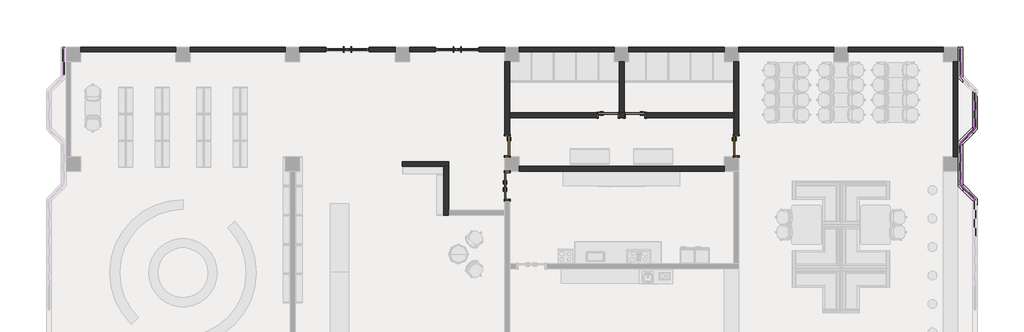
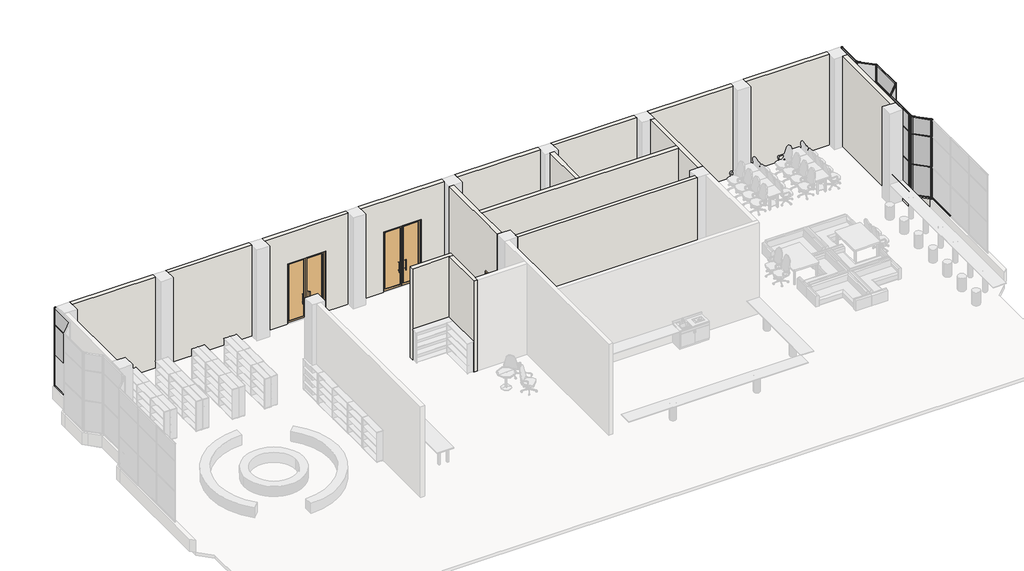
# One storey, part 4 of 6: 73 members, 21 walls, 20 plates, 7 doors.
"""IFC4 building model written with IfcOpenShell, lengths in millimetres."""

from ifc_helpers import new_model, si_unit, frame, origin, origin_with_axes, place, context, project, spatial, polyline, outline, extrude, faceted_brep, transform, mapped, element, save
from components import m1_23ed398d, m2_627b48e9, m3_482f5408, m3_1d156f18, member_cb4e50c7, member_b2874c62, member_936fc316, member_ce826986, member_f3a61f5a, member_844fc7d1, member_a19ce0de, member_3b68bbe8, member_416e91fe, member_e4634f50, member_39920356, member_1f987d58, member_65f70824, member_5b67f58a, plate_1ca0cd63, plate_9a7d06eb, plate_54ac635d, plate_9a913afb, plate_37a4c68e, plate_a56820a4, plate_a414dcb1, plate_d4bc9f12

model = new_model("IFC4")

# Units and contexts
model_context = context("Model", 3, world=origin())
ifc_project = project(units=[si_unit("LENGTHUNIT", "METRE", prefix="MILLI")], contexts=[model_context])

# Site, building, storey
site = spatial("IfcSite", under=ifc_project)
building = spatial("IfcBuilding", under=site)
storey = spatial("IfcBuildingStorey", under=building, Name="标高 1", Elevation=0.0)

# Doors
placement = place(None, origin())
m1_shape = m1_23ed398d(model_context)
element("IfcDoor", 1, ObjectType="双面嵌板玻璃门 : M1", at=placement, inside=storey, context=model_context, shape_type="MappedRepresentation", body=[
    mapped(m1_shape, transform((2817.3316161, 6574.535821, 0.0), x_axis=(1.0, 0.0, 0.0), y_axis=(0.0, 1.0, 0.0), z_axis=(0.0, 0.0, 1.0))),
])
element("IfcDoor", 2, ObjectType="双面嵌板玻璃门 : M1", at=placement, inside=storey, context=model_context, shape_type="MappedRepresentation", body=[
    mapped(m1_shape, transform((7317.3316161, 6574.535821, 0.0), x_axis=(1.0, 0.0, 0.0), y_axis=(0.0, 1.0, 0.0), z_axis=(0.0, 0.0, 1.0))),
])
m2_shape = m2_627b48e9(model_context)
element("IfcDoor", 3, ObjectType="双面嵌板木门 1 : M2", at=placement, inside=storey, context=model_context, shape_type="MappedRepresentation", body=[
    mapped(m2_shape, transform((9367.3316161, 974.535821, 0.0), x_axis=(0.0, 1.0, 0.0), y_axis=(-1.0, 0.0, 0.0), z_axis=(0.0, 0.0, 1.0))),
])
m3_shape = m3_482f5408(model_context)
element("IfcDoor", 4, ObjectType="单嵌板木门 1 : M3", at=placement, inside=storey, context=model_context, shape_type="MappedRepresentation", body=[
    mapped(m3_shape, transform((9367.3316161, 2624.535821, 0.0), x_axis=(0.0, -1.0, 0.0), y_axis=(1.0, 0.0, 0.0), z_axis=(0.0, 0.0, 1.0))),
])
element("IfcDoor", 5, ObjectType="单嵌板木门 1 : M3", at=placement, inside=storey, context=model_context, shape_type="MappedRepresentation", body=[
    mapped(m3_shape, transform((13517.3316161, 3874.535821, 0.0), x_axis=(1.0, 0.0, 0.0), y_axis=(0.0, 1.0, 0.0), z_axis=(0.0, 0.0, 1.0))),
])
m3_2_shape = m3_1d156f18(model_context)
element("IfcDoor", 6, ObjectType="单嵌板木门 1 : M3", at=placement, inside=storey, context=model_context, shape_type="MappedRepresentation", body=[
    mapped(m3_2_shape, transform((18767.3316161, 2624.535821, 0.0), x_axis=(0.0, -1.0, 0.0), y_axis=(1.0, 0.0, 0.0), z_axis=(0.0, 0.0, 1.0))),
])
element("IfcDoor", 7, ObjectType="单嵌板木门 1 : M3", at=placement, inside=storey, context=model_context, shape_type="MappedRepresentation", body=[
    mapped(m3_2_shape, transform((14617.3316161, 3874.535821, 0.0), x_axis=(-1.0, 0.0, 0.0), y_axis=(0.0, -1.0, 0.0), z_axis=(0.0, 0.0, 1.0))),
])

# Members
member_shape = member_cb4e50c7(model_context)
element("IfcMember", 8, ObjectType="圆形竖梃 : 25mm 半径", at=placement, inside=storey, context=model_context, shape_type="MappedRepresentation", body=[
    mapped(member_shape, transform((-8832.6683839, 6624.535821, 600.0), x_axis=(0.0, 0.0, -1.0), y_axis=(-1.0, 0.0, 0.0), z_axis=(0.0, 1.0, 0.0))),
])
member_2_shape = member_b2874c62(model_context)
element("IfcMember", 9, ObjectType="圆形竖梃 : 25mm 半径", at=placement, inside=storey, context=model_context, shape_type="MappedRepresentation", body=[
    mapped(member_2_shape, transform((-8832.6683839, 6674.535821, 4500.0), x_axis=(0.0, 1.0, 0.0), y_axis=(-1.0, 0.0, 0.0), z_axis=(0.0, 0.0, 1.0))),
])
member_3_shape = member_936fc316(model_context)
element("IfcMember", 10, ObjectType="圆形竖梃 : 25mm 半径", at=placement, inside=storey, context=model_context, shape_type="MappedRepresentation", body=[
    mapped(member_3_shape, transform((-8832.6683839, 6674.535821, 2135.0), x_axis=(0.0, 1.0, 0.0), y_axis=(-1.0, 0.0, 0.0), z_axis=(0.0, 0.0, 1.0))),
])
member_4_shape = member_ce826986(model_context)
element("IfcMember", 11, ObjectType="圆形竖梃 : 25mm 半径", at=placement, inside=storey, context=model_context, shape_type="MappedRepresentation", body=[
    mapped(member_4_shape, transform((-8832.6683839, 6674.535821, 3635.0), x_axis=(0.0, 1.0, 0.0), y_axis=(-1.0, 0.0, 0.0), z_axis=(0.0, 0.0, 1.0))),
])
element("IfcMember", 12, ObjectType="圆形竖梃 : 25mm 半径", at=placement, inside=storey, context=model_context, shape_type="MappedRepresentation", body=[
    mapped(member_shape, transform((27967.3316161, 5524.535821, 4500.0), x_axis=(0.0, 0.0, 1.0), y_axis=(-1.0, 0.0, 0.0), z_axis=(0.0, -1.0, 0.0))),
])
element("IfcMember", 13, ObjectType="圆形竖梃 : 25mm 半径", at=placement, inside=storey, context=model_context, shape_type="MappedRepresentation", body=[
    mapped(member_shape, transform((27967.3316161, 6624.535821, 600.0), x_axis=(0.0, 0.0, -1.0), y_axis=(-1.0, 0.0, 0.0), z_axis=(0.0, 1.0, 0.0))),
])
member_5_shape = member_f3a61f5a(model_context)
element("IfcMember", 14, ObjectType="矩形竖梃 : 30mm 正方形", at=placement, inside=storey, context=model_context, shape_type="MappedRepresentation", body=[
    mapped(member_5_shape, transform((27967.3316161, 5524.535821, 2135.0), x_axis=(0.0, 0.0, 1.0), y_axis=(-1.0, 0.0, 0.0), z_axis=(0.0, -1.0, 0.0))),
])
element("IfcMember", 15, ObjectType="矩形竖梃 : 30mm 正方形", at=placement, inside=storey, context=model_context, shape_type="MappedRepresentation", body=[
    mapped(member_5_shape, transform((27967.3316161, 5524.535821, 3635.0), x_axis=(0.0, 0.0, 1.0), y_axis=(-1.0, 0.0, 0.0), z_axis=(0.0, -1.0, 0.0))),
])
element("IfcMember", 16, ObjectType="圆形竖梃 : 25mm 半径", at=placement, inside=storey, context=model_context, shape_type="MappedRepresentation", body=[
    mapped(member_3_shape, transform((27967.3316161, 5474.535821, 600.0), x_axis=(0.0, -1.0, 0.0), y_axis=(-1.0, 0.0, 0.0), z_axis=(0.0, 0.0, -1.0))),
])
element("IfcMember", 17, ObjectType="圆形竖梃 : 25mm 半径", at=placement, inside=storey, context=model_context, shape_type="MappedRepresentation", body=[
    mapped(member_3_shape, transform((28567.3316161, 4874.535821, 600.0), x_axis=(0.7071067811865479, -0.7071067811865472, 0.0), y_axis=(-0.7071067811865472, -0.7071067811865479, 0.0), z_axis=(0.0, 0.0, -1.0))),
])
element("IfcMember", 18, ObjectType="圆形竖梃 : 25mm 半径", at=placement, inside=storey, context=model_context, shape_type="MappedRepresentation", body=[
    mapped(member_3_shape, transform((27967.3316161, 2733.1144647, 600.0), x_axis=(-0.7071067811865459, -0.7071067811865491, 0.0), y_axis=(-0.7071067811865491, 0.7071067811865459, 0.0), z_axis=(0.0, 0.0, -1.0))),
])
element("IfcMember", 19, ObjectType="圆形竖梃 : 25mm 半径", at=placement, inside=storey, context=model_context, shape_type="MappedRepresentation", body=[
    mapped(member_3_shape, transform((27967.3316161, 1015.9571772, 600.0), x_axis=(0.0, -1.0, 0.0), y_axis=(-1.0, 0.0, 0.0), z_axis=(0.0, 0.0, -1.0))),
])
element("IfcMember", 20, ObjectType="圆形竖梃 : 25mm 半径", at=placement, inside=storey, context=model_context, shape_type="MappedRepresentation", body=[
    mapped(member_3_shape, transform((28567.3316161, 415.9571772, 600.0), x_axis=(0.7071067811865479, -0.7071067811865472, 0.0), y_axis=(-0.7071067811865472, -0.7071067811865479, 0.0), z_axis=(0.0, 0.0, -1.0))),
])
element("IfcMember", 21, ObjectType="圆形竖梃 : 25mm 半径", at=placement, inside=storey, context=model_context, shape_type="MappedRepresentation", body=[
    mapped(member_4_shape, transform((27967.3316161, 5474.535821, 2135.0), x_axis=(0.0, -1.0, 0.0), y_axis=(-1.0, 0.0, 0.0), z_axis=(0.0, 0.0, -1.0))),
])
element("IfcMember", 22, ObjectType="圆形竖梃 : 25mm 半径", at=placement, inside=storey, context=model_context, shape_type="MappedRepresentation", body=[
    mapped(member_4_shape, transform((28567.3316161, 4874.535821, 2135.0), x_axis=(0.7071067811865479, -0.7071067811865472, 0.0), y_axis=(-0.7071067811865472, -0.7071067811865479, 0.0), z_axis=(0.0, 0.0, -1.0))),
])
element("IfcMember", 23, ObjectType="圆形竖梃 : 25mm 半径", at=placement, inside=storey, context=model_context, shape_type="MappedRepresentation", body=[
    mapped(member_4_shape, transform((27967.3316161, 2733.1144647, 2135.0), x_axis=(-0.7071067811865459, -0.7071067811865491, 0.0), y_axis=(-0.7071067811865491, 0.7071067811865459, 0.0), z_axis=(0.0, 0.0, -1.0))),
])
element("IfcMember", 24, ObjectType="圆形竖梃 : 25mm 半径", at=placement, inside=storey, context=model_context, shape_type="MappedRepresentation", body=[
    mapped(member_4_shape, transform((27967.3316161, 1015.9571772, 2135.0), x_axis=(0.0, -1.0, 0.0), y_axis=(-1.0, 0.0, 0.0), z_axis=(0.0, 0.0, -1.0))),
])
element("IfcMember", 25, ObjectType="圆形竖梃 : 25mm 半径", at=placement, inside=storey, context=model_context, shape_type="MappedRepresentation", body=[
    mapped(member_4_shape, transform((28567.3316161, 415.9571772, 2135.0), x_axis=(0.7071067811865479, -0.7071067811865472, 0.0), y_axis=(-0.7071067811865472, -0.7071067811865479, 0.0), z_axis=(0.0, 0.0, -1.0))),
])
element("IfcMember", 26, ObjectType="圆形竖梃 : 25mm 半径", at=placement, inside=storey, context=model_context, shape_type="MappedRepresentation", body=[
    mapped(member_2_shape, transform((27967.3316161, 5474.535821, 3635.0), x_axis=(0.0, -1.0, 0.0), y_axis=(-1.0, 0.0, 0.0), z_axis=(0.0, 0.0, -1.0))),
])
element("IfcMember", 27, ObjectType="圆形竖梃 : 25mm 半径", at=placement, inside=storey, context=model_context, shape_type="MappedRepresentation", body=[
    mapped(member_2_shape, transform((28567.3316161, 4874.535821, 3635.0), x_axis=(0.7071067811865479, -0.7071067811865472, 0.0), y_axis=(-0.7071067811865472, -0.7071067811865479, 0.0), z_axis=(0.0, 0.0, -1.0))),
])
element("IfcMember", 28, ObjectType="圆形竖梃 : 25mm 半径", at=placement, inside=storey, context=model_context, shape_type="MappedRepresentation", body=[
    mapped(member_2_shape, transform((27967.3316161, 2733.1144647, 3635.0), x_axis=(-0.7071067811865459, -0.7071067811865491, 0.0), y_axis=(-0.7071067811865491, 0.7071067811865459, 0.0), z_axis=(0.0, 0.0, -1.0))),
])
element("IfcMember", 29, ObjectType="圆形竖梃 : 25mm 半径", at=placement, inside=storey, context=model_context, shape_type="MappedRepresentation", body=[
    mapped(member_2_shape, transform((27967.3316161, 1015.9571772, 3635.0), x_axis=(0.0, -1.0, 0.0), y_axis=(-1.0, 0.0, 0.0), z_axis=(0.0, 0.0, -1.0))),
])
element("IfcMember", 30, ObjectType="圆形竖梃 : 25mm 半径", at=placement, inside=storey, context=model_context, shape_type="MappedRepresentation", body=[
    mapped(member_2_shape, transform((28567.3316161, 415.9571772, 3635.0), x_axis=(0.7071067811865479, -0.7071067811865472, 0.0), y_axis=(-0.7071067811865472, -0.7071067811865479, 0.0), z_axis=(0.0, 0.0, -1.0))),
])
element("IfcMember", 31, ObjectType="圆形竖梃 : 25mm 半径", at=placement, inside=storey, context=model_context, shape_type="MappedRepresentation", body=[
    mapped(member_2_shape, transform((27967.3316161, 6674.535821, 4500.0), x_axis=(0.0, 1.0, 0.0), y_axis=(-1.0, 0.0, 0.0), z_axis=(0.0, 0.0, 1.0))),
])
element("IfcMember", 32, ObjectType="圆形竖梃 : 25mm 半径", at=placement, inside=storey, context=model_context, shape_type="MappedRepresentation", body=[
    mapped(member_2_shape, transform((27967.3316161, 5474.535821, 4500.0), x_axis=(-0.7071067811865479, 0.7071067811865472, 0.0), y_axis=(-0.7071067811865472, -0.7071067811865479, 0.0), z_axis=(0.0, 0.0, 1.0))),
])
element("IfcMember", 33, ObjectType="圆形竖梃 : 25mm 半径", at=placement, inside=storey, context=model_context, shape_type="MappedRepresentation", body=[
    mapped(member_2_shape, transform((28567.3316161, 3333.1144647, 4500.0), x_axis=(0.7071067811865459, 0.7071067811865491, 0.0), y_axis=(-0.7071067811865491, 0.7071067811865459, 0.0), z_axis=(0.0, 0.0, 1.0))),
])
element("IfcMember", 34, ObjectType="圆形竖梃 : 25mm 半径", at=placement, inside=storey, context=model_context, shape_type="MappedRepresentation", body=[
    mapped(member_2_shape, transform((27967.3316161, 2733.1144647, 4500.0), x_axis=(0.0, 1.0, 0.0), y_axis=(-1.0, 0.0, 0.0), z_axis=(0.0, 0.0, 1.0))),
])
element("IfcMember", 35, ObjectType="圆形竖梃 : 25mm 半径", at=placement, inside=storey, context=model_context, shape_type="MappedRepresentation", body=[
    mapped(member_2_shape, transform((27967.3316161, 1015.9571772, 4500.0), x_axis=(-0.7071067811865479, 0.7071067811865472, 0.0), y_axis=(-0.7071067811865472, -0.7071067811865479, 0.0), z_axis=(0.0, 0.0, 1.0))),
])
element("IfcMember", 36, ObjectType="圆形竖梃 : 25mm 半径", at=placement, inside=storey, context=model_context, shape_type="MappedRepresentation", body=[
    mapped(member_2_shape, transform((28567.3316161, 415.9571772, 4500.0), x_axis=(0.0, 1.0, 0.0), y_axis=(-1.0, 0.0, 0.0), z_axis=(0.0, 0.0, 1.0))),
])
element("IfcMember", 37, ObjectType="圆形竖梃 : 25mm 半径", at=placement, inside=storey, context=model_context, shape_type="MappedRepresentation", body=[
    mapped(member_3_shape, transform((27967.3316161, 6674.535821, 2135.0), x_axis=(0.0, 1.0, 0.0), y_axis=(-1.0, 0.0, 0.0), z_axis=(0.0, 0.0, 1.0))),
])
element("IfcMember", 38, ObjectType="圆形竖梃 : 25mm 半径", at=placement, inside=storey, context=model_context, shape_type="MappedRepresentation", body=[
    mapped(member_3_shape, transform((27967.3316161, 5474.535821, 2135.0), x_axis=(-0.7071067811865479, 0.7071067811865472, 0.0), y_axis=(-0.7071067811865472, -0.7071067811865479, 0.0), z_axis=(0.0, 0.0, 1.0))),
])
element("IfcMember", 39, ObjectType="圆形竖梃 : 25mm 半径", at=placement, inside=storey, context=model_context, shape_type="MappedRepresentation", body=[
    mapped(member_3_shape, transform((28567.3316161, 3333.1144647, 2135.0), x_axis=(0.7071067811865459, 0.7071067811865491, 0.0), y_axis=(-0.7071067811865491, 0.7071067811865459, 0.0), z_axis=(0.0, 0.0, 1.0))),
])
element("IfcMember", 40, ObjectType="圆形竖梃 : 25mm 半径", at=placement, inside=storey, context=model_context, shape_type="MappedRepresentation", body=[
    mapped(member_3_shape, transform((27967.3316161, 2733.1144647, 2135.0), x_axis=(0.0, 1.0, 0.0), y_axis=(-1.0, 0.0, 0.0), z_axis=(0.0, 0.0, 1.0))),
])
element("IfcMember", 41, ObjectType="圆形竖梃 : 25mm 半径", at=placement, inside=storey, context=model_context, shape_type="MappedRepresentation", body=[
    mapped(member_3_shape, transform((27967.3316161, 1015.9571772, 2135.0), x_axis=(-0.7071067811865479, 0.7071067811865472, 0.0), y_axis=(-0.7071067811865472, -0.7071067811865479, 0.0), z_axis=(0.0, 0.0, 1.0))),
])
element("IfcMember", 42, ObjectType="圆形竖梃 : 25mm 半径", at=placement, inside=storey, context=model_context, shape_type="MappedRepresentation", body=[
    mapped(member_3_shape, transform((28567.3316161, 415.9571772, 2135.0), x_axis=(0.0, 1.0, 0.0), y_axis=(-1.0, 0.0, 0.0), z_axis=(0.0, 0.0, 1.0))),
])
element("IfcMember", 43, ObjectType="圆形竖梃 : 25mm 半径", at=placement, inside=storey, context=model_context, shape_type="MappedRepresentation", body=[
    mapped(member_4_shape, transform((27967.3316161, 6674.535821, 3635.0), x_axis=(0.0, 1.0, 0.0), y_axis=(-1.0, 0.0, 0.0), z_axis=(0.0, 0.0, 1.0))),
])
element("IfcMember", 44, ObjectType="圆形竖梃 : 25mm 半径", at=placement, inside=storey, context=model_context, shape_type="MappedRepresentation", body=[
    mapped(member_4_shape, transform((27967.3316161, 5474.535821, 3635.0), x_axis=(-0.7071067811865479, 0.7071067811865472, 0.0), y_axis=(-0.7071067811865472, -0.7071067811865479, 0.0), z_axis=(0.0, 0.0, 1.0))),
])
element("IfcMember", 45, ObjectType="圆形竖梃 : 25mm 半径", at=placement, inside=storey, context=model_context, shape_type="MappedRepresentation", body=[
    mapped(member_4_shape, transform((28567.3316161, 3333.1144647, 3635.0), x_axis=(0.7071067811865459, 0.7071067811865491, 0.0), y_axis=(-0.7071067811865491, 0.7071067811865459, 0.0), z_axis=(0.0, 0.0, 1.0))),
])
element("IfcMember", 46, ObjectType="圆形竖梃 : 25mm 半径", at=placement, inside=storey, context=model_context, shape_type="MappedRepresentation", body=[
    mapped(member_4_shape, transform((27967.3316161, 2733.1144647, 3635.0), x_axis=(0.0, 1.0, 0.0), y_axis=(-1.0, 0.0, 0.0), z_axis=(0.0, 0.0, 1.0))),
])
element("IfcMember", 47, ObjectType="圆形竖梃 : 25mm 半径", at=placement, inside=storey, context=model_context, shape_type="MappedRepresentation", body=[
    mapped(member_4_shape, transform((27967.3316161, 1015.9571772, 3635.0), x_axis=(-0.7071067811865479, 0.7071067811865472, 0.0), y_axis=(-0.7071067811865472, -0.7071067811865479, 0.0), z_axis=(0.0, 0.0, 1.0))),
])
element("IfcMember", 48, ObjectType="圆形竖梃 : 25mm 半径", at=placement, inside=storey, context=model_context, shape_type="MappedRepresentation", body=[
    mapped(member_4_shape, transform((28567.3316161, 415.9571772, 3635.0), x_axis=(0.0, 1.0, 0.0), y_axis=(-1.0, 0.0, 0.0), z_axis=(0.0, 0.0, 1.0))),
])
member_6_shape = member_844fc7d1(model_context)
element("IfcMember", 49, ObjectType="圆形竖梃 : 25mm 半径", at=placement, inside=storey, context=model_context, shape_type="MappedRepresentation", body=[
    mapped(member_6_shape, transform((28531.976277, 4909.89116, 4500.0), x_axis=(0.0, 0.0, 1.0), y_axis=(-0.7071067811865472, -0.7071067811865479, 0.0), z_axis=(0.7071067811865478, -0.7071067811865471, 0.0))),
])
element("IfcMember", 50, ObjectType="圆形竖梃 : 25mm 半径", at=placement, inside=storey, context=model_context, shape_type="MappedRepresentation", body=[
    mapped(member_6_shape, transform((28002.6869551, 2768.4698038, 4500.0), x_axis=(0.0, 0.0, 1.0), y_axis=(-0.7071067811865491, 0.7071067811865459, 0.0), z_axis=(-0.7071067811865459, -0.7071067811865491, 0.0))),
])
element("IfcMember", 51, ObjectType="圆形竖梃 : 25mm 半径", at=placement, inside=storey, context=model_context, shape_type="MappedRepresentation", body=[
    mapped(member_6_shape, transform((28531.976277, 451.3125163, 4500.0), x_axis=(0.0, 0.0, 1.0), y_axis=(-0.7071067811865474, -0.7071067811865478, 0.0), z_axis=(0.7071067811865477, -0.7071067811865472, 0.0))),
])
element("IfcMember", 52, ObjectType="圆形竖梃 : 25mm 半径", at=placement, inside=storey, context=model_context, shape_type="MappedRepresentation", body=[
    mapped(member_6_shape, transform((28531.976277, 3297.7591257, 600.0), x_axis=(0.0, 0.0, -1.0), y_axis=(-0.7071067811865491, 0.7071067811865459, 0.0), z_axis=(0.7071067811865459, 0.7071067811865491, 0.0))),
])
element("IfcMember", 53, ObjectType="圆形竖梃 : 25mm 半径", at=placement, inside=storey, context=model_context, shape_type="MappedRepresentation", body=[
    mapped(member_6_shape, transform((28002.6869551, 980.6018382, 600.0), x_axis=(0.0, 0.0, -1.0), y_axis=(-0.7071067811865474, -0.7071067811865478, 0.0), z_axis=(-0.7071067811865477, 0.7071067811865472, 0.0))),
])
member_7_shape = member_a19ce0de(model_context)
element("IfcMember", 54, ObjectType="矩形竖梃 : 30mm 正方形", at=placement, inside=storey, context=model_context, shape_type="MappedRepresentation", body=[
    mapped(member_7_shape, transform((28531.976277, 4909.89116, 2135.0), x_axis=(0.0, 0.0, 1.0), y_axis=(-0.7071067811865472, -0.7071067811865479, 0.0), z_axis=(0.7071067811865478, -0.7071067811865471, 0.0))),
])
element("IfcMember", 55, ObjectType="矩形竖梃 : 30mm 正方形", at=placement, inside=storey, context=model_context, shape_type="MappedRepresentation", body=[
    mapped(member_7_shape, transform((28531.976277, 4909.89116, 3635.0), x_axis=(0.0, 0.0, 1.0), y_axis=(-0.7071067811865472, -0.7071067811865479, 0.0), z_axis=(0.7071067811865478, -0.7071067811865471, 0.0))),
])
element("IfcMember", 56, ObjectType="矩形竖梃 : 30mm 正方形", at=placement, inside=storey, context=model_context, shape_type="MappedRepresentation", body=[
    mapped(member_7_shape, transform((28002.6869551, 2768.4698038, 2135.0), x_axis=(0.0, 0.0, 1.0), y_axis=(-0.7071067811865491, 0.7071067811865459, 0.0), z_axis=(-0.7071067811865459, -0.7071067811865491, 0.0))),
])
element("IfcMember", 57, ObjectType="矩形竖梃 : 30mm 正方形", at=placement, inside=storey, context=model_context, shape_type="MappedRepresentation", body=[
    mapped(member_7_shape, transform((28002.6869551, 2768.4698038, 3635.0), x_axis=(0.0, 0.0, 1.0), y_axis=(-0.7071067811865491, 0.7071067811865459, 0.0), z_axis=(-0.7071067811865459, -0.7071067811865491, 0.0))),
])
element("IfcMember", 58, ObjectType="矩形竖梃 : 30mm 正方形", at=placement, inside=storey, context=model_context, shape_type="MappedRepresentation", body=[
    mapped(member_7_shape, transform((28531.976277, 451.3125163, 2135.0), x_axis=(0.0, 0.0, 1.0), y_axis=(-0.7071067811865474, -0.7071067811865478, 0.0), z_axis=(0.7071067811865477, -0.7071067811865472, 0.0))),
])
element("IfcMember", 59, ObjectType="矩形竖梃 : 30mm 正方形", at=placement, inside=storey, context=model_context, shape_type="MappedRepresentation", body=[
    mapped(member_7_shape, transform((28531.976277, 451.3125163, 3635.0), x_axis=(0.0, 0.0, 1.0), y_axis=(-0.7071067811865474, -0.7071067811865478, 0.0), z_axis=(0.7071067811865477, -0.7071067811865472, 0.0))),
])
member_8_shape = member_3b68bbe8(model_context)
element("IfcMember", 60, ObjectType="圆形竖梃 : 25mm 半径", at=placement, inside=storey, context=model_context, shape_type="MappedRepresentation", body=[
    mapped(member_8_shape, transform((28567.3316161, 3354.5358207, 4500.0), x_axis=(0.0, 0.0, 1.0), y_axis=(-1.0, 0.0, 0.0), z_axis=(0.0, -1.0, 0.0))),
])
element("IfcMember", 61, ObjectType="圆形竖梃 : 25mm 半径", at=placement, inside=storey, context=model_context, shape_type="MappedRepresentation", body=[
    mapped(member_8_shape, transform((27967.3316161, 1213.1144644, 4500.0), x_axis=(0.0, 0.0, 1.0), y_axis=(-1.0, 0.0, 0.0), z_axis=(0.0, -1.0, 0.0))),
])
element("IfcMember", 62, ObjectType="圆形竖梃 : 25mm 半径", at=placement, inside=storey, context=model_context, shape_type="MappedRepresentation", body=[
    mapped(member_8_shape, transform((27967.3316161, 2683.1144647, 600.0), x_axis=(0.0, 0.0, -1.0), y_axis=(-1.0, 0.0, 0.0), z_axis=(0.0, 1.0, 0.0))),
])
element("IfcMember", 63, ObjectType="圆形竖梃 : 25mm 半径", at=placement, inside=storey, context=model_context, shape_type="MappedRepresentation", body=[
    mapped(member_8_shape, transform((28567.3316161, 365.9571772, 600.0), x_axis=(0.0, 0.0, -1.0), y_axis=(-1.0, 0.0, 0.0), z_axis=(0.0, 1.0, 0.0))),
])
member_9_shape = member_416e91fe(model_context)
element("IfcMember", 64, ObjectType="矩形竖梃 : 30mm 正方形", at=placement, inside=storey, context=model_context, shape_type="MappedRepresentation", body=[
    mapped(member_9_shape, transform((28567.3316161, 3354.5358207, 2135.0), x_axis=(0.0, 0.0, 1.0), y_axis=(-1.0, 0.0, 0.0), z_axis=(0.0, -1.0, 0.0))),
])
element("IfcMember", 65, ObjectType="矩形竖梃 : 30mm 正方形", at=placement, inside=storey, context=model_context, shape_type="MappedRepresentation", body=[
    mapped(member_9_shape, transform((28567.3316161, 3354.5358207, 3635.0), x_axis=(0.0, 0.0, 1.0), y_axis=(-1.0, 0.0, 0.0), z_axis=(0.0, -1.0, 0.0))),
])
element("IfcMember", 66, ObjectType="矩形竖梃 : 30mm 正方形", at=placement, inside=storey, context=model_context, shape_type="MappedRepresentation", body=[
    mapped(member_9_shape, transform((27967.3316161, 1213.1144644, 2135.0), x_axis=(0.0, 0.0, 1.0), y_axis=(-1.0, 0.0, 0.0), z_axis=(0.0, -1.0, 0.0))),
])
element("IfcMember", 67, ObjectType="矩形竖梃 : 30mm 正方形", at=placement, inside=storey, context=model_context, shape_type="MappedRepresentation", body=[
    mapped(member_9_shape, transform((27967.3316161, 1213.1144644, 3635.0), x_axis=(0.0, 0.0, 1.0), y_axis=(-1.0, 0.0, 0.0), z_axis=(0.0, -1.0, 0.0))),
])
member_10_shape = member_e4634f50(model_context)
element("IfcMember", 68, ObjectType="矩形竖梃 : 30mm 正方形", at=placement, inside=storey, context=model_context, shape_type="MappedRepresentation", body=[
    mapped(member_10_shape, transform((28567.3316161, 3339.5358207, 600.0), x_axis=(0.0, -1.0, 0.0), y_axis=(-1.0, 0.0, 0.0), z_axis=(0.0, 0.0, -1.0))),
])
element("IfcMember", 69, ObjectType="矩形竖梃 : 30mm 正方形", at=placement, inside=storey, context=model_context, shape_type="MappedRepresentation", body=[
    mapped(member_10_shape, transform((27967.3316161, 1198.1144644, 600.0), x_axis=(0.0, -1.0, 0.0), y_axis=(-1.0, 0.0, 0.0), z_axis=(0.0, 0.0, -1.0))),
])
member_11_shape = member_39920356(model_context)
element("IfcMember", 70, ObjectType="矩形竖梃 : 30mm 正方形", at=placement, inside=storey, context=model_context, shape_type="MappedRepresentation", body=[
    mapped(member_11_shape, transform((28567.3316161, 3339.5358207, 2135.0), x_axis=(0.0, -1.0, 0.0), y_axis=(-1.0, 0.0, 0.0), z_axis=(0.0, 0.0, -1.0))),
])
element("IfcMember", 71, ObjectType="矩形竖梃 : 30mm 正方形", at=placement, inside=storey, context=model_context, shape_type="MappedRepresentation", body=[
    mapped(member_11_shape, transform((27967.3316161, 1198.1144644, 2135.0), x_axis=(0.0, -1.0, 0.0), y_axis=(-1.0, 0.0, 0.0), z_axis=(0.0, 0.0, -1.0))),
])
member_12_shape = member_1f987d58(model_context)
element("IfcMember", 72, ObjectType="矩形竖梃 : 30mm 正方形", at=placement, inside=storey, context=model_context, shape_type="MappedRepresentation", body=[
    mapped(member_12_shape, transform((28567.3316161, 3339.5358207, 3635.0), x_axis=(0.0, -1.0, 0.0), y_axis=(-1.0, 0.0, 0.0), z_axis=(0.0, 0.0, -1.0))),
])
element("IfcMember", 73, ObjectType="矩形竖梃 : 30mm 正方形", at=placement, inside=storey, context=model_context, shape_type="MappedRepresentation", body=[
    mapped(member_12_shape, transform((27967.3316161, 1198.1144644, 3635.0), x_axis=(0.0, -1.0, 0.0), y_axis=(-1.0, 0.0, 0.0), z_axis=(0.0, 0.0, -1.0))),
])
element("IfcMember", 74, ObjectType="圆形竖梃 : 25mm 半径", at=placement, inside=storey, context=model_context, shape_type="MappedRepresentation", body=[
    mapped(member_3_shape, transform((28567.3316161, 3333.1144647, 600.0), x_axis=(0.0, -1.0, 0.0), y_axis=(-1.0, 0.0, 0.0), z_axis=(0.0, 0.0, -1.0))),
])
element("IfcMember", 75, ObjectType="圆形竖梃 : 25mm 半径", at=placement, inside=storey, context=model_context, shape_type="MappedRepresentation", body=[
    mapped(member_4_shape, transform((28567.3316161, 3333.1144647, 2135.0), x_axis=(0.0, -1.0, 0.0), y_axis=(-1.0, 0.0, 0.0), z_axis=(0.0, 0.0, -1.0))),
])
element("IfcMember", 76, ObjectType="圆形竖梃 : 25mm 半径", at=placement, inside=storey, context=model_context, shape_type="MappedRepresentation", body=[
    mapped(member_2_shape, transform((28567.3316161, 3333.1144647, 3635.0), x_axis=(0.0, -1.0, 0.0), y_axis=(-1.0, 0.0, 0.0), z_axis=(0.0, 0.0, -1.0))),
])
member_13_shape = member_65f70824(model_context)
element("IfcMember", 77, ObjectType="圆形竖梃 : 25mm 半径", at=placement, inside=storey, context=model_context, shape_type="MappedRepresentation", body=[
    mapped(member_13_shape, transform((27967.3316161, 1065.9571772, 4500.0), x_axis=(0.0, 0.0, 1.0), y_axis=(-1.0, 0.0, 0.0), z_axis=(0.0, -1.0, 0.0))),
])
element("IfcMember", 78, ObjectType="圆形竖梃 : 25mm 半径", at=placement, inside=storey, context=model_context, shape_type="MappedRepresentation", body=[
    mapped(member_13_shape, transform((27967.3316161, 1183.1144644, 600.0), x_axis=(0.0, 0.0, -1.0), y_axis=(-1.0, 0.0, 0.0), z_axis=(0.0, 1.0, 0.0))),
])
member_14_shape = member_5b67f58a(model_context)
element("IfcMember", 79, ObjectType="矩形竖梃 : 30mm 正方形", at=placement, inside=storey, context=model_context, shape_type="MappedRepresentation", body=[
    mapped(member_14_shape, transform((27967.3316161, 1065.9571772, 2135.0), x_axis=(0.0, 0.0, 1.0), y_axis=(-1.0, 0.0, 0.0), z_axis=(0.0, -1.0, 0.0))),
])
element("IfcMember", 80, ObjectType="矩形竖梃 : 30mm 正方形", at=placement, inside=storey, context=model_context, shape_type="MappedRepresentation", body=[
    mapped(member_14_shape, transform((27967.3316161, 1065.9571772, 3635.0), x_axis=(0.0, 0.0, 1.0), y_axis=(-1.0, 0.0, 0.0), z_axis=(0.0, -1.0, 0.0))),
])

# Plates
plate_shape = plate_1ca0cd63(model_context)
element("IfcPlate", 81, ObjectType="系统嵌板 : 玻璃", at=placement, inside=storey, context=model_context, shape_type="MappedRepresentation", body=[
    mapped(plate_shape, transform((-8832.6683839, 6074.535821, 2150.0), x_axis=(0.0, -1.0, 0.0), y_axis=(1.0, 0.0, 0.0), z_axis=(0.0, 0.0, 1.0))),
])
plate_2_shape = plate_9a7d06eb(model_context)
element("IfcPlate", 82, ObjectType="系统嵌板 : 玻璃", at=placement, inside=storey, context=model_context, shape_type="MappedRepresentation", body=[
    mapped(plate_2_shape, transform((-8832.6683839, 6074.535821, 3650.0), x_axis=(0.0, -1.0, 0.0), y_axis=(1.0, 0.0, 0.0), z_axis=(0.0, 0.0, 1.0))),
])
element("IfcPlate", 83, ObjectType="系统嵌板 : 玻璃", at=placement, inside=storey, context=model_context, shape_type="MappedRepresentation", body=[
    mapped(plate_shape, transform((27967.3316161, 6074.535821, 650.0), x_axis=(0.0, -1.0, 0.0), y_axis=(1.0, 0.0, 0.0), z_axis=(0.0, 0.0, 1.0))),
])
element("IfcPlate", 84, ObjectType="系统嵌板 : 玻璃", at=placement, inside=storey, context=model_context, shape_type="MappedRepresentation", body=[
    mapped(plate_shape, transform((27967.3316161, 6074.535821, 2150.0), x_axis=(0.0, -1.0, 0.0), y_axis=(1.0, 0.0, 0.0), z_axis=(0.0, 0.0, 1.0))),
])
element("IfcPlate", 85, ObjectType="系统嵌板 : 玻璃", at=placement, inside=storey, context=model_context, shape_type="MappedRepresentation", body=[
    mapped(plate_2_shape, transform((27967.3316161, 6074.535821, 3650.0), x_axis=(0.0, -1.0, 0.0), y_axis=(1.0, 0.0, 0.0), z_axis=(0.0, 0.0, 1.0))),
])
plate_3_shape = plate_54ac635d(model_context)
element("IfcPlate", 86, ObjectType="系统嵌板 : 玻璃", at=placement, inside=storey, context=model_context, shape_type="MappedRepresentation", body=[
    mapped(plate_3_shape, transform((28267.3316161, 3033.1144647, 650.0), x_axis=(-0.7071067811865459, -0.7071067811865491, 0.0), y_axis=(0.7071067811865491, -0.7071067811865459, 0.0), z_axis=(0.0, 0.0, 1.0))),
])
element("IfcPlate", 87, ObjectType="系统嵌板 : 玻璃", at=placement, inside=storey, context=model_context, shape_type="MappedRepresentation", body=[
    mapped(plate_3_shape, transform((28267.3316161, 3033.1144647, 2150.0), x_axis=(-0.7071067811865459, -0.7071067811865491, 0.0), y_axis=(0.7071067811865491, -0.7071067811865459, 0.0), z_axis=(0.0, 0.0, 1.0))),
])
element("IfcPlate", 88, ObjectType="系统嵌板 : 玻璃", at=placement, inside=storey, context=model_context, shape_type="MappedRepresentation", body=[
    mapped(plate_3_shape, transform((28267.3316161, 715.9571772, 650.0), x_axis=(0.7071067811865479, -0.7071067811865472, 0.0), y_axis=(0.7071067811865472, 0.7071067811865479, 0.0), z_axis=(0.0, 0.0, 1.0))),
])
element("IfcPlate", 89, ObjectType="系统嵌板 : 玻璃", at=placement, inside=storey, context=model_context, shape_type="MappedRepresentation", body=[
    mapped(plate_3_shape, transform((28267.3316161, 715.9571772, 2150.0), x_axis=(0.7071067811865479, -0.7071067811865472, 0.0), y_axis=(0.7071067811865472, 0.7071067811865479, 0.0), z_axis=(0.0, 0.0, 1.0))),
])
plate_4_shape = plate_9a913afb(model_context)
element("IfcPlate", 90, ObjectType="系统嵌板 : 玻璃", at=placement, inside=storey, context=model_context, shape_type="MappedRepresentation", body=[
    mapped(plate_4_shape, transform((28267.3316161, 3033.1144647, 3650.0), x_axis=(-0.7071067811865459, -0.7071067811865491, 0.0), y_axis=(0.7071067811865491, -0.7071067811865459, 0.0), z_axis=(0.0, 0.0, 1.0))),
])
element("IfcPlate", 91, ObjectType="系统嵌板 : 玻璃", at=placement, inside=storey, context=model_context, shape_type="MappedRepresentation", body=[
    mapped(plate_4_shape, transform((28267.3316161, 715.9571772, 3650.0), x_axis=(0.7071067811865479, -0.7071067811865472, 0.0), y_axis=(0.7071067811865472, 0.7071067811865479, 0.0), z_axis=(0.0, 0.0, 1.0))),
])
plate_5_shape = plate_37a4c68e(model_context)
element("IfcPlate", 92, ObjectType="系统嵌板 : 玻璃", at=placement, inside=storey, context=model_context, shape_type="MappedRepresentation", body=[
    mapped(plate_5_shape, transform((28567.3316161, 4089.5358208, 650.0), x_axis=(0.0, -1.0, 0.0), y_axis=(1.0, 0.0, 0.0), z_axis=(0.0, 0.0, 1.0))),
])
element("IfcPlate", 93, ObjectType="系统嵌板 : 玻璃", at=placement, inside=storey, context=model_context, shape_type="MappedRepresentation", body=[
    mapped(plate_5_shape, transform((28567.3316161, 4089.5358208, 2150.0), x_axis=(0.0, -1.0, 0.0), y_axis=(1.0, 0.0, 0.0), z_axis=(0.0, 0.0, 1.0))),
])
element("IfcPlate", 94, ObjectType="系统嵌板 : 玻璃", at=placement, inside=storey, context=model_context, shape_type="MappedRepresentation", body=[
    mapped(plate_5_shape, transform((27967.3316161, 1948.1144646, 650.0), x_axis=(0.0, -1.0, 0.0), y_axis=(1.0, 0.0, 0.0), z_axis=(0.0, 0.0, 1.0))),
])
element("IfcPlate", 95, ObjectType="系统嵌板 : 玻璃", at=placement, inside=storey, context=model_context, shape_type="MappedRepresentation", body=[
    mapped(plate_5_shape, transform((27967.3316161, 1948.1144646, 2150.0), x_axis=(0.0, -1.0, 0.0), y_axis=(1.0, 0.0, 0.0), z_axis=(0.0, 0.0, 1.0))),
])
plate_6_shape = plate_a56820a4(model_context)
element("IfcPlate", 96, ObjectType="系统嵌板 : 玻璃", at=placement, inside=storey, context=model_context, shape_type="MappedRepresentation", body=[
    mapped(plate_6_shape, transform((28567.3316161, 4089.5358208, 3650.0), x_axis=(0.0, -1.0, 0.0), y_axis=(1.0, 0.0, 0.0), z_axis=(0.0, 0.0, 1.0))),
])
element("IfcPlate", 97, ObjectType="系统嵌板 : 玻璃", at=placement, inside=storey, context=model_context, shape_type="MappedRepresentation", body=[
    mapped(plate_6_shape, transform((27967.3316161, 1948.1144646, 3650.0), x_axis=(0.0, -1.0, 0.0), y_axis=(1.0, 0.0, 0.0), z_axis=(0.0, 0.0, 1.0))),
])
plate_7_shape = plate_a414dcb1(model_context)
element("IfcPlate", 98, ObjectType="系统嵌板 : 玻璃", at=placement, inside=storey, context=model_context, shape_type="MappedRepresentation", body=[
    mapped(plate_7_shape, transform((27967.3316161, 1124.5358208, 650.0), x_axis=(0.0, -1.0, 0.0), y_axis=(1.0, 0.0, 0.0), z_axis=(0.0, 0.0, 1.0))),
])
element("IfcPlate", 99, ObjectType="系统嵌板 : 玻璃", at=placement, inside=storey, context=model_context, shape_type="MappedRepresentation", body=[
    mapped(plate_7_shape, transform((27967.3316161, 1124.5358208, 2150.0), x_axis=(0.0, -1.0, 0.0), y_axis=(1.0, 0.0, 0.0), z_axis=(0.0, 0.0, 1.0))),
])
plate_8_shape = plate_d4bc9f12(model_context)
element("IfcPlate", 100, ObjectType="系统嵌板 : 玻璃", at=placement, inside=storey, context=model_context, shape_type="MappedRepresentation", body=[
    mapped(plate_8_shape, transform((27967.3316161, 1124.5358208, 3650.0), x_axis=(0.0, -1.0, 0.0), y_axis=(1.0, 0.0, 0.0), z_axis=(0.0, 0.0, 1.0))),
])

# Walls
element("IfcWall", 101, ObjectType="外墙-200", at=placement, inside=storey, context=model_context, shape_type="SweptSolid", body=[
    extrude(outline(polyline([(-4232.6683839, 6474.535821), (-8132.6683839, 6474.535821), (-8132.6683839, 6674.535821), (-4232.6683839, 6674.535821), (-4232.6683839, 6474.535821)])), origin_with_axes(), (0.0, 0.0, 1.0), 4500.0),
])
element("IfcWall", 102, ObjectType="外墙-200", at=placement, inside=storey, context=model_context, shape_type="SweptSolid", body=[
    extrude(outline(polyline([(267.3316161, 6474.535821), (-3632.6683839, 6474.535821), (-3632.6683839, 6674.535821), (267.3316161, 6674.535821), (267.3316161, 6474.535821)])), origin_with_axes(), (0.0, 0.0, 1.0), 4500.0),
])
element("IfcWall", 103, ObjectType="外墙-200", at=placement, inside=storey, context=model_context, shape_type="SweptSolid", body=[
    extrude(outline(polyline([(0.0, 4767.3316161), (4500.0, 4767.3316161), (4500.0, 867.3316161), (0.0, 867.3316161), (0.0, 1917.3316161), (3000.0, 1917.3316161), (3000.0, 3717.3316161), (0.0, 3717.3316161), (0.0, 4767.3316161)])), frame((0.0, 6474.535821, 0.0), z_axis=(0.0, 1.0, 0.0), x_axis=(0.0, 0.0, 1.0)), (0.0, 0.0, 1.0), 200.0),
])
element("IfcWall", 104, ObjectType="外墙-200", at=placement, inside=storey, context=model_context, shape_type="SweptSolid", body=[
    extrude(outline(polyline([(0.0, 9267.3316161), (4500.0, 9267.3316161), (4500.0, 5367.3316161), (0.0, 5367.3316161), (0.0, 6417.3316161), (3000.0, 6417.3316161), (3000.0, 8217.3316161), (0.0, 8217.3316161), (0.0, 9267.3316161)])), frame((0.0, 6474.535821, 0.0), z_axis=(0.0, 1.0, 0.0), x_axis=(0.0, 0.0, 1.0)), (0.0, 0.0, 1.0), 200.0),
])
element("IfcWall", 105, ObjectType="外墙-200", at=placement, inside=storey, context=model_context, shape_type="SweptSolid", body=[
    extrude(outline(polyline([(13767.3316161, 6474.535821), (9867.3316161, 6474.535821), (9867.3316161, 6674.535821), (13767.3316161, 6674.535821), (13767.3316161, 6474.535821)])), origin_with_axes(), (0.0, 0.0, 1.0), 4500.0),
])
element("IfcWall", 106, ObjectType="外墙-200", at=placement, inside=storey, context=model_context, shape_type="SweptSolid", body=[
    extrude(outline(polyline([(18267.3316161, 6474.535821), (14367.3316161, 6474.535821), (14367.3316161, 6674.535821), (18267.3316161, 6674.535821), (18267.3316161, 6474.535821)])), origin_with_axes(), (0.0, 0.0, 1.0), 4500.0),
])
element("IfcWall", 107, ObjectType="外墙-200", at=placement, inside=storey, context=model_context, shape_type="SweptSolid", body=[
    extrude(outline(polyline([(22767.3316161, 6474.535821), (18867.3316161, 6474.535821), (18867.3316161, 6674.535821), (22767.3316161, 6674.535821), (22767.3316161, 6474.535821)])), origin_with_axes(), (0.0, 0.0, 1.0), 4500.0),
])
element("IfcWall", 108, ObjectType="外墙-200", at=placement, inside=storey, context=model_context, shape_type="SweptSolid", body=[
    extrude(outline(polyline([(27267.3316161, 6474.535821), (23367.3316161, 6474.535821), (23367.3316161, 6674.535821), (27267.3316161, 6674.535821), (27267.3316161, 6474.535821)])), origin_with_axes(), (0.0, 0.0, 1.0), 4500.0),
])
element("IfcWall", 109, ObjectType="外墙-200", at=placement, inside=storey, context=model_context, shape_type="SweptSolid", body=[
    extrude(outline(polyline([(27667.3316161, 2174.535821), (27667.3316161, 6074.535821), (27867.3316161, 6074.535821), (27867.3316161, 2174.535821), (27667.3316161, 2174.535821)])), origin_with_axes(), (0.0, 0.0, 1.0), 4500.0),
])
element("IfcWall", 110, ObjectType="内墙-200", at=placement, inside=storey, context=model_context, shape_type="Brep", body=[
    faceted_brep([(5067.3316161, 1774.535821, 0.0), (6767.3316161, 1774.535821, 0.0), (6967.3316161, 1774.535821, 0.0), (6967.3316161, 1774.535821, 4500.0), (6767.3316161, 1774.535821, 4500.0), (5067.3316161, 1774.535821, 4500.0), (5067.3316161, 1974.535821, 0.0), (5067.3316161, 1974.535821, 4500.0), (6967.3316161, 1974.535821, 4500.0), (6967.3316161, 1974.535821, 0.0)], [[[0, 1, 2, 3, 4, 5]], [[6, 7, 8, 9]], [[2, 1, 0, 6, 9]], [[5, 4, 3, 8, 7]], [[0, 5, 7, 6]], [[3, 2, 9, 8]]]),
])
element("IfcWall", 111, ObjectType="内墙-200", at=placement, inside=storey, context=model_context, shape_type="Brep", body=[
    faceted_brep([(6767.3316161, 1774.535821, 0.0), (6767.3316161, -225.464179, 0.0), (6767.3316161, -225.464179, 4500.0), (6767.3316161, 1774.535821, 4500.0), (6967.3316161, 1774.535821, 0.0), (6967.3316161, 1774.535821, 4500.0), (6967.3316161, -25.464179, 4500.0), (6967.3316161, -225.464179, 4500.0), (6967.3316161, -225.464179, 0.0), (6967.3316161, -25.464179, 0.0)], [[[0, 1, 2, 3]], [[4, 5, 6, 7, 8, 9]], [[1, 0, 4, 9, 8]], [[3, 2, 7, 6, 5]], [[0, 3, 5, 4]], [[2, 1, 8, 7]]]),
])
element("IfcWall", 112, ObjectType="内墙-200", at=placement, inside=storey, context=model_context, shape_type="Brep", body=[
    faceted_brep([(9267.3316161, 2174.535821, 4500.0), (9267.3316161, 6074.535821, 4500.0), (9267.3316161, 6074.535821, 0.0), (9267.3316161, 3074.535821, 0.0), (9267.3316161, 3074.535821, 2100.0), (9267.3316161, 2174.535821, 2100.0), (9467.3316161, 6074.535821, 4500.0), (9467.3316161, 3974.535821, 4500.0), (9467.3316161, 3774.535821, 4500.0), (9467.3316161, 2174.535821, 4500.0), (9467.3316161, 2174.535821, 2100.0), (9467.3316161, 3074.535821, 2100.0), (9467.3316161, 3074.535821, 0.0), (9467.3316161, 6074.535821, 0.0)], [[[0, 1, 2, 3, 4, 5]], [[6, 7, 8, 9, 10, 11, 12, 13]], [[2, 13, 12, 3]], [[9, 0, 5, 10]], [[1, 0, 9, 8, 7, 6]], [[2, 1, 6, 13]], [[4, 11, 10, 5]], [[11, 4, 3, 12]]]),
])
element("IfcWall", 113, ObjectType="内墙-200", at=placement, inside=storey, context=model_context, shape_type="SweptSolid", body=[
    extrude(outline(polyline([(18267.3316161, 1574.535821), (9867.3316161, 1574.535821), (9867.3316161, 1774.535821), (18267.3316161, 1774.535821), (18267.3316161, 1574.535821)])), origin_with_axes(), (0.0, 0.0, 1.0), 4500.0),
])
element("IfcWall", 114, ObjectType="内墙-200", at=placement, inside=storey, context=model_context, shape_type="Brep", body=[
    faceted_brep([(18867.3316161, 6074.535821, 0.0), (18867.3316161, 6074.535821, 4500.0), (18867.3316161, 2174.535821, 4500.0), (18867.3316161, 2174.535821, 2100.0), (18867.3316161, 3074.535821, 2100.0), (18867.3316161, 3074.535821, 0.0), (18667.3316161, 6074.535821, 4500.0), (18667.3316161, 6074.535821, 0.0), (18667.3316161, 3074.535821, 0.0), (18667.3316161, 3074.535821, 2100.0), (18667.3316161, 2174.535821, 2100.0), (18667.3316161, 2174.535821, 4500.0), (18667.3316161, 3774.535821, 4500.0), (18667.3316161, 3974.535821, 4500.0)], [[[0, 1, 2, 3, 4, 5]], [[6, 7, 8, 9, 10, 11, 12, 13]], [[7, 0, 5, 8]], [[1, 0, 7, 6]], [[2, 1, 6, 13, 12, 11]], [[2, 11, 10, 3]], [[9, 4, 3, 10]], [[4, 9, 8, 5]]]),
])
element("IfcWall", 115, ObjectType="外墙-200", at=placement, inside=storey, context=model_context, shape_type="Brep", body=[
    faceted_brep([(27867.3316161, 6674.535821, 0.0), (27867.3316161, 5433.1144647, 0.0), (27867.3316161, 5433.1144647, 600.0), (27867.3316161, 6674.535821, 600.0), (28067.3316161, 6674.535821, 0.0), (28067.3316161, 6674.535821, 600.0), (28067.3316161, 5515.9571772, 600.0), (28067.3316161, 5233.1144647, 600.0), (28067.3316161, 5233.1144647, 0.0), (28067.3316161, 5515.9571772, 0.0)], [[[0, 1, 2, 3]], [[4, 5, 6, 7, 8, 9]], [[1, 0, 4, 9, 8]], [[3, 2, 7, 6, 5]], [[0, 3, 5, 4]], [[2, 1, 8, 7]]]),
])
element("IfcWall", 116, ObjectType="外墙-200", at=placement, inside=storey, context=model_context, shape_type="Brep", body=[
    faceted_brep([(28467.3316161, 4833.1144647, 0.0), (28467.3316161, 3374.535821, 0.0), (28467.3316161, 3091.6931085, 0.0), (28467.3316161, 3091.6931085, 600.0), (28467.3316161, 3374.535821, 600.0), (28467.3316161, 4833.1144647, 600.0), (28667.3316161, 4633.1144647, 0.0), (28667.3316161, 4633.1144647, 600.0), (28667.3316161, 3291.6931085, 600.0), (28667.3316161, 3291.6931085, 0.0)], [[[0, 1, 2, 3, 4, 5]], [[6, 7, 8, 9]], [[2, 1, 0, 6, 9]], [[5, 4, 3, 8, 7]], [[0, 5, 7, 6]], [[3, 2, 9, 8]]]),
])
element("IfcWall", 117, ObjectType="外墙-200", at=placement, inside=storey, context=model_context, shape_type="Brep", body=[
    faceted_brep([(27867.3316161, 2491.6931085, 0.0), (28067.3316161, 2691.6931085, 0.0), (28467.3316161, 3091.6931085, 0.0), (28467.3316161, 3091.6931085, 600.0), (28067.3316161, 2691.6931085, 600.0), (27867.3316161, 2491.6931085, 600.0), (27867.3316161, 2774.535821, 0.0), (27867.3316161, 2774.535821, 600.0), (28467.3316161, 3374.535821, 600.0), (28467.3316161, 3374.535821, 0.0)], [[[0, 1, 2, 3, 4, 5]], [[6, 7, 8, 9]], [[2, 1, 0, 6, 9]], [[5, 4, 3, 8, 7]], [[3, 2, 9, 8]], [[0, 5, 7, 6]]]),
])
element("IfcWall", 118, ObjectType="外墙-200", at=placement, inside=storey, context=model_context, shape_type="Brep", body=[
    faceted_brep([(27867.3316161, 2491.6931085, 0.0), (27867.3316161, 974.535821, 0.0), (27867.3316161, 974.535821, 600.0), (27867.3316161, 2491.6931085, 600.0), (28067.3316161, 2691.6931085, 0.0), (28067.3316161, 2691.6931085, 600.0), (28067.3316161, 1057.3785335, 600.0), (28067.3316161, 774.535821, 600.0), (28067.3316161, 774.535821, 0.0), (28067.3316161, 1057.3785335, 0.0)], [[[0, 1, 2, 3]], [[4, 5, 6, 7, 8, 9]], [[1, 0, 4, 9, 8]], [[3, 2, 7, 6, 5]], [[2, 1, 8, 7]], [[0, 3, 5, 4]]]),
])
element("IfcWall", 119, ObjectType="外墙-200", at=placement, inside=storey, context=model_context, shape_type="Brep", body=[
    faceted_brep([(28067.3316161, 774.535821, 0.0), (28467.3316161, 374.535821, 0.0), (28667.3316161, 174.535821, 0.0), (28667.3316161, 174.535821, 600.0), (28467.3316161, 374.535821, 600.0), (28067.3316161, 774.535821, 600.0), (28067.3316161, 1057.3785335, 0.0), (28067.3316161, 1057.3785335, 600.0), (28667.3316161, 457.3785335, 600.0), (28667.3316161, 457.3785335, 0.0)], [[[0, 1, 2, 3, 4, 5]], [[6, 7, 8, 9]], [[2, 1, 0, 6, 9]], [[5, 4, 3, 8, 7]], [[0, 5, 7, 6]], [[3, 2, 9, 8]]]),
])
element("IfcWall", 120, ObjectType="内墙-200", at=placement, inside=storey, context=model_context, shape_type="Brep", body=[
    faceted_brep([(18667.3316161, 3774.535821, 4500.0), (9467.3316161, 3774.535821, 4500.0), (9467.3316161, 3774.535821, 600.0), (13067.3316161, 3774.535821, 600.0), (13067.3316161, 3774.535821, 2100.0), (13967.3316161, 3774.535821, 2100.0), (13967.3316161, 3774.535821, 600.0), (14167.3316161, 3774.535821, 600.0), (14167.3316161, 3774.535821, 2100.0), (15067.3316161, 3774.535821, 2100.0), (15067.3316161, 3774.535821, 600.0), (18667.3316161, 3774.535821, 600.0), (9467.3316161, 3974.535821, 4500.0), (13967.3316161, 3974.535821, 4500.0), (14167.3316161, 3974.535821, 4500.0), (18667.3316161, 3974.535821, 4500.0), (18667.3316161, 3974.535821, 600.0), (15067.3316161, 3974.535821, 600.0), (15067.3316161, 3974.535821, 2100.0), (14167.3316161, 3974.535821, 2100.0), (14167.3316161, 3974.535821, 600.0), (13967.3316161, 3974.535821, 600.0), (13967.3316161, 3974.535821, 2100.0), (13067.3316161, 3974.535821, 2100.0), (13067.3316161, 3974.535821, 600.0), (9467.3316161, 3974.535821, 600.0)], [[[0, 1, 2, 3, 4, 5, 6, 7, 8, 9, 10, 11]], [[12, 13, 14, 15, 16, 17, 18, 19, 20, 21, 22, 23, 24, 25]], [[2, 25, 24, 3]], [[16, 11, 10, 17]], [[6, 21, 20, 7]], [[1, 0, 15, 14, 13, 12]], [[2, 1, 12, 25]], [[0, 11, 16, 15]], [[5, 22, 21, 6]], [[22, 5, 4, 23]], [[23, 4, 3, 24]], [[19, 8, 7, 20]], [[8, 19, 18, 9]], [[9, 18, 17, 10]]]),
])
element("IfcWall", 121, ObjectType="内墙-200", at=placement, inside=storey, context=model_context, shape_type="SweptSolid", body=[
    extrude(outline(polyline([(13967.3316161, 3974.535821), (13967.3316161, 6074.535821), (14167.3316161, 6074.535821), (14167.3316161, 3974.535821), (13967.3316161, 3974.535821)])), frame((0.0, 0.0, 600.0), z_axis=(0.0, 0.0, 1.0), x_axis=(1.0, 0.0, 0.0)), (0.0, 0.0, 1.0), 3900.0),
])

save(model, "model.ifc")
